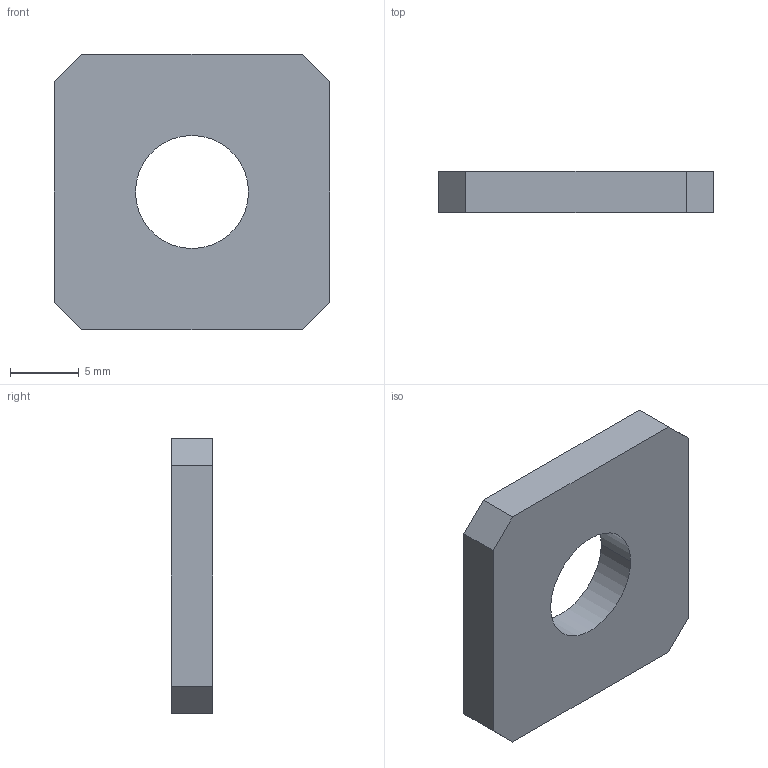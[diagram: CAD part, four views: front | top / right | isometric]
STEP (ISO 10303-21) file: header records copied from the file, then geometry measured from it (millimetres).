
FILE_DESCRIPTION((''),'2;1');
FILE_NAME('ROQ0810S','2002-12-27T',('Lipro doo'),('Lipro d.o.o.'),'PRO/ENGINEER BY PARAMETRIC TECHNOLOGY CORPORATION, 2001150','PRO/ENGINEER BY PARAMETRIC TECHNOLOGY CORPORATION, 2001150','');
FILE_SCHEMA(('CONFIG_CONTROL_DESIGN'));
Length unit declared in the file: millimetre
Products named in the file (1): ROQ0810S
Bounding box: 20 x 3 x 20 mm (x, y, z)
Volume: 1017.6 mm3; surface area: 981.6 mm2
Topology: 1 solids, 1 shells, 12 faces, 30 edges, 20 vertices
Faces by surface type: plane 10, cylinder 2
Entity records: 400 total; most frequent: CARTESIAN_POINT 62, ORIENTED_EDGE 60, DIRECTION 58, EDGE_CURVE 30, VECTOR 26, LINE 26, VERTEX_POINT 20, AXIS2_PLACEMENT_3D 16
